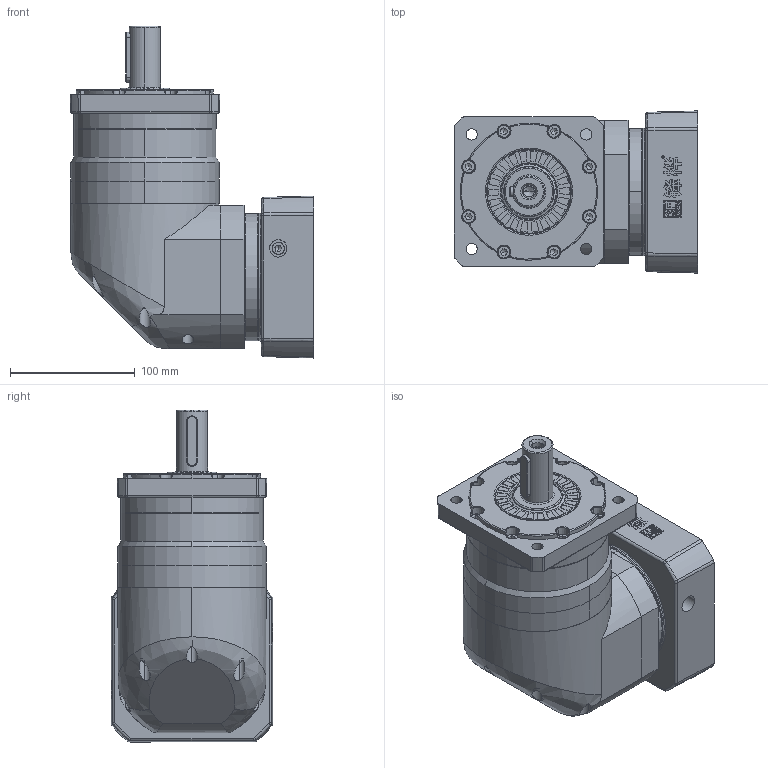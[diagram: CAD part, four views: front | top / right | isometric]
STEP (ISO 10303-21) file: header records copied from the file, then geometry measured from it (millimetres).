
FILE_DESCRIPTION (( 'STEP AP214' ), '1' );
FILE_NAME ('FBR120-L1-S2-P2 24-110-145-M8.STEP', '2021-04-23T07:24:56', ( 'Microsoft' ), ( 'Microsoft China' ), 'SwSTEP 2.0', 'SolidWorks 2016', '' );
FILE_SCHEMA (( 'AUTOMOTIVE_DESIGN' ));
Length unit declared in the file: millimetre
Products named in the file (14): す瑩8X40; 蚐猾40x68x8; 怀堤俴陎殤FBR115D-25X50XM10; 输入锁紧环26X63.5X16; 输入太阳齿轮FBR115D-22; 镂空输入法兰-110X44.5XM8; 输入端壳体FBR115D; 珨撰眻褒眊极FBR110D; 怀堤傷褲极FBR110D; 怀堤傷褲极FBR120; 内齿圈FBR120; FBR120-L1-S2-P2 24-110-145-M8; M5-12樓粟菜; M6-14
Assembly tree (39 placements, depth 2):
  FBR120-L1-S2-P2 24-110-145-M8
    内齿圈FBR120
    怀堤傷褲极FBR120
    怀堤傷褲极FBR110D
    珨撰眻褒眊极FBR110D
    输入端壳体FBR115D
    镂空输入法兰-110X44.5XM8
    输入太阳齿轮FBR115D-22
    输入锁紧环26X63.5X16
    怀堤俴陎殤FBR115D-25X50XM10
    蚐猾40x68x8
    す瑩8X40
    M6-14  x21
    M5-12樓粟菜  x7
Bounding box: 195.5 x 130 x 266.5 mm (x, y, z)
Volume: 2896395.8 mm3; surface area: 384443.5 mm2
Topology: 32 solids, 46 shells, 2272 faces, 5508 edges, 3375 vertices
Faces by surface type: plane 755, bspline 589, cylinder 510, cone 322, torus 96
Entity records: 93669 total; most frequent: CARTESIAN_POINT 40336, ORIENTED_EDGE 7981, DIRECTION 5910, EDGE_CURVE 3994, VERTEX_POINT 2491, AXIS2_PLACEMENT_3D 2193, EDGE_LOOP 1832, UNCERTAINTY_MEASURE_WITH_UNIT 1684
